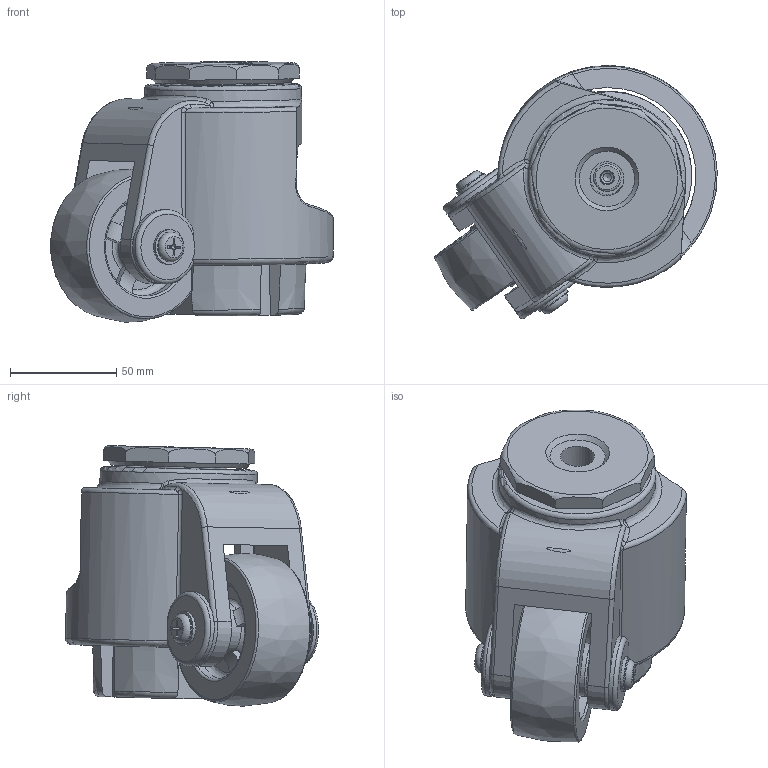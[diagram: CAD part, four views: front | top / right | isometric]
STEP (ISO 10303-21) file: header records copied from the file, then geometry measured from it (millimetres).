
FILE_DESCRIPTION((' '),'2;1');
FILE_NAME('Y:\00. A standard brand\06. 3D Modeling\외부전송용_STEP\CARRYMASTER(STEP)\AC-1300S.stp.stp','2011-11-22T13:43:17',(' '),(' '),' ','ACIS',' ');
FILE_SCHEMA(('CONFIG_CONTROL_DESIGN'));
Length unit declared in the file: millimetre
Products named in the file (1): Y:\00. A standard brand\06. 3D Modeling\외부전송용_STEP\CARRYMASTER(STEP)\AC-1300S.stp.stp
Bounding box: 132.89 x 119.09 x 122.51 mm (x, y, z)
Volume: 596631.9 mm3; surface area: 136713.9 mm2
Topology: 14 solids, 20 shells, 586 faces, 1437 edges, 869 vertices
Faces by surface type: plane 205, cylinder 145, bspline 101, torus 59, sphere 46, cone 30
Full cylindrical faces by diameter (mm): 4 x1, 8 x3, 10 x1, 11 x1, 12 x1, 12.2 x1, 13 x3, 14 x3, 16 x4, 16.5 x1, 20 x1, 22 x1, 24 x1, 24.5 x1, 25 x2, 25.4 x1, 30 x1, 39 x1, 40 x1, 41.2 x1, 41.4 x1, 47 x2, 74 x1
Entity records: 23292 total; most frequent: CARTESIAN_POINT 10231, DIRECTION 2774, ORIENTED_EDGE 2528, EDGE_CURVE 1264, AXIS2_PLACEMENT_3D 1165, VERTEX_POINT 805, EDGE_LOOP 716, CIRCLE 632
